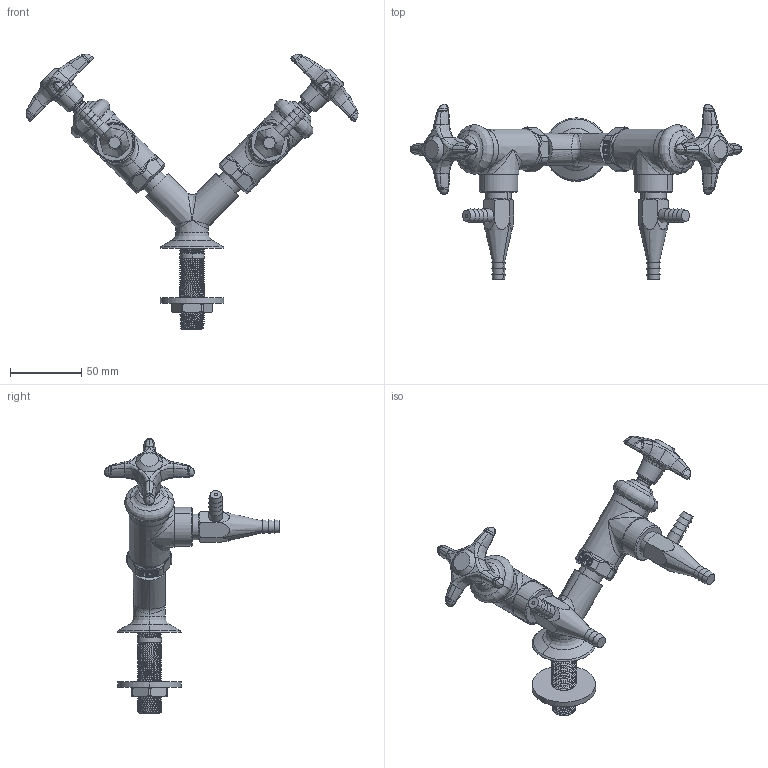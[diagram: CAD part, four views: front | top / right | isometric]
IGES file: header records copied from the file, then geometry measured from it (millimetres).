
Start section:  PTC IGES file: LWV2-C31-65.igs
Global section: file name: LWV2-C31-65.igs; native system: Creo Parametric by PTC Inc.; preprocessor: 2014500; author: usch_engrender; organization: Unknown; date: 20151124.091049; units: inch
Bounding box: 232.46 x 123.15 x 193.16 mm (x, y, z)
Volume: 222721.9 mm3; surface area: 55052.8 mm2
Topology: 1 solids, 8 shells, 1028 faces, 2388 edges, 1417 vertices
Faces by surface type: bspline 570, revolution 458
